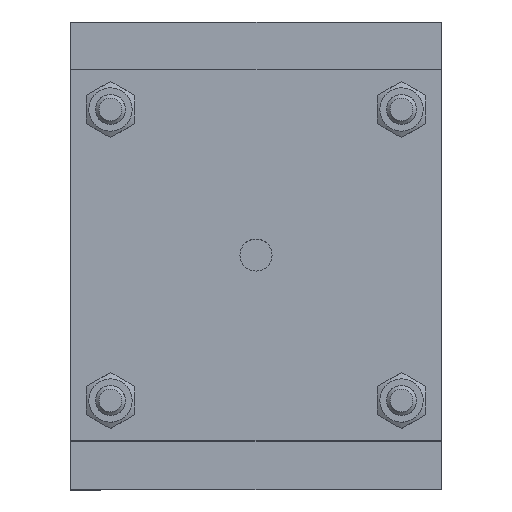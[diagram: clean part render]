
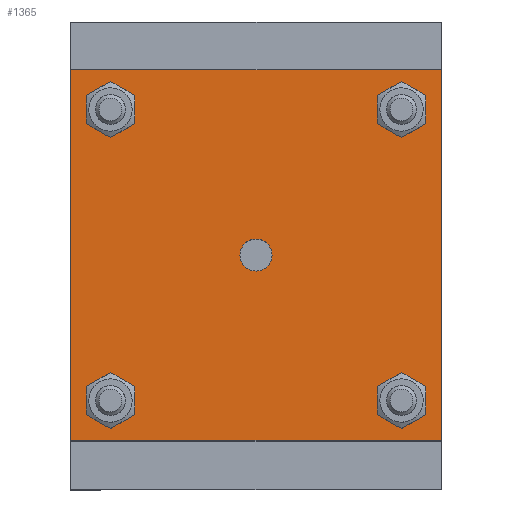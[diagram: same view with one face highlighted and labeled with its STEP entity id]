
A CAD part, top view. The second image highlights one B-rep face of the part: STEP entity #1365.
In plain terms, the highlighted planar face has unit normal (0, 0, 1).
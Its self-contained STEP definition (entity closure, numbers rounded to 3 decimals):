
#1080=CARTESIAN_POINT('',(49.5,45.217,128.));
#1081=VERTEX_POINT('',#1080);
#1082=CARTESIAN_POINT('',(49.5,49.5,128.));
#1083=DIRECTION('',(0.0,0.0,-1.0));
#1084=DIRECTION('',(0.0,-1.0,0.0));
#1085=AXIS2_PLACEMENT_3D('',#1082,#1083,#1084);
#1086=CIRCLE('',#1085,4.283);
#1087=EDGE_CURVE('',#1081,#1081,#1086,.T.);
#1119=CARTESIAN_POINT('',(10.609,6.109,128.));
#1120=VERTEX_POINT('',#1119);
#1121=CARTESIAN_POINT('',(10.609,10.609,128.));
#1122=DIRECTION('',(0.0,0.0,-1.0));
#1123=DIRECTION('',(0.0,-1.0,0.0));
#1124=AXIS2_PLACEMENT_3D('',#1121,#1122,#1123);
#1125=CIRCLE('',#1124,4.5);
#1126=EDGE_CURVE('',#1120,#1120,#1125,.T.);
#1147=CARTESIAN_POINT('',(10.609,83.891,128.));
#1148=VERTEX_POINT('',#1147);
#1149=CARTESIAN_POINT('',(10.609,88.391,128.));
#1150=DIRECTION('',(0.0,0.0,-1.0));
#1151=DIRECTION('',(0.0,-1.0,0.0));
#1152=AXIS2_PLACEMENT_3D('',#1149,#1150,#1151);
#1153=CIRCLE('',#1152,4.5);
#1154=EDGE_CURVE('',#1148,#1148,#1153,.T.);
#1175=CARTESIAN_POINT('',(88.391,83.891,128.));
#1176=VERTEX_POINT('',#1175);
#1177=CARTESIAN_POINT('',(88.391,88.391,128.));
#1178=DIRECTION('',(0.0,0.0,-1.0));
#1179=DIRECTION('',(0.0,-1.0,0.0));
#1180=AXIS2_PLACEMENT_3D('',#1177,#1178,#1179);
#1181=CIRCLE('',#1180,4.5);
#1182=EDGE_CURVE('',#1176,#1176,#1181,.T.);
#1203=CARTESIAN_POINT('',(88.391,6.109,128.));
#1204=VERTEX_POINT('',#1203);
#1205=CARTESIAN_POINT('',(88.391,10.609,128.));
#1206=DIRECTION('',(0.0,0.0,-1.0));
#1207=DIRECTION('',(0.0,-1.0,0.0));
#1208=AXIS2_PLACEMENT_3D('',#1205,#1206,#1207);
#1209=CIRCLE('',#1208,4.5);
#1210=EDGE_CURVE('',#1204,#1204,#1209,.T.);
#1220=CARTESIAN_POINT('',(99.,0.,128.));
#1221=VERTEX_POINT('',#1220);
#1222=CARTESIAN_POINT('',(0.,0.,128.));
#1223=VERTEX_POINT('',#1222);
#1224=CARTESIAN_POINT('',(99.,0.,128.));
#1225=DIRECTION('',(-1.0,0.0,0.0));
#1226=VECTOR('',#1225,99.);
#1227=LINE('',#1224,#1226);
#1228=EDGE_CURVE('',#1221,#1223,#1227,.T.);
#1260=CARTESIAN_POINT('',(0.,99.,128.));
#1261=VERTEX_POINT('',#1260);
#1262=CARTESIAN_POINT('',(0.,0.,128.));
#1263=DIRECTION('',(0.0,1.0,0.0));
#1264=VECTOR('',#1263,99.);
#1265=LINE('',#1262,#1264);
#1266=EDGE_CURVE('',#1223,#1261,#1265,.T.);
#1291=CARTESIAN_POINT('',(99.,99.,128.));
#1292=VERTEX_POINT('',#1291);
#1293=CARTESIAN_POINT('',(0.,99.,128.));
#1294=DIRECTION('',(1.0,0.0,0.0));
#1295=VECTOR('',#1294,99.);
#1296=LINE('',#1293,#1295);
#1297=EDGE_CURVE('',#1261,#1292,#1296,.T.);
#1322=CARTESIAN_POINT('',(99.,99.,128.));
#1323=DIRECTION('',(0.0,-1.0,0.0));
#1324=VECTOR('',#1323,99.0);
#1325=LINE('',#1322,#1324);
#1326=EDGE_CURVE('',#1292,#1221,#1325,.T.);
#1339=CARTESIAN_POINT('',(49.5,49.5,128.));
#1340=DIRECTION('',(0.0,0.0,1.0));
#1341=DIRECTION('',(0.0,-1.0,0.0));
#1342=AXIS2_PLACEMENT_3D('',#1339,#1340,#1341);
#1343=PLANE('',#1342);
#1344=ORIENTED_EDGE('',*,*,#1228,.F.);
#1345=ORIENTED_EDGE('',*,*,#1326,.F.);
#1346=ORIENTED_EDGE('',*,*,#1297,.F.);
#1347=ORIENTED_EDGE('',*,*,#1266,.F.);
#1348=EDGE_LOOP('',(#1344,#1345,#1346,#1347));
#1349=FACE_OUTER_BOUND('',#1348,.T.);
#1350=ORIENTED_EDGE('',*,*,#1087,.T.);
#1351=EDGE_LOOP('',(#1350));
#1352=FACE_BOUND('',#1351,.T.);
#1353=ORIENTED_EDGE('',*,*,#1126,.T.);
#1354=EDGE_LOOP('',(#1353));
#1355=FACE_BOUND('',#1354,.T.);
#1356=ORIENTED_EDGE('',*,*,#1154,.T.);
#1357=EDGE_LOOP('',(#1356));
#1358=FACE_BOUND('',#1357,.T.);
#1359=ORIENTED_EDGE('',*,*,#1182,.T.);
#1360=EDGE_LOOP('',(#1359));
#1361=FACE_BOUND('',#1360,.T.);
#1362=ORIENTED_EDGE('',*,*,#1210,.T.);
#1363=EDGE_LOOP('',(#1362));
#1364=FACE_BOUND('',#1363,.T.);
#1365=ADVANCED_FACE('',(#1349,#1352,#1355,#1358,#1361,#1364),#1343,.T.);
